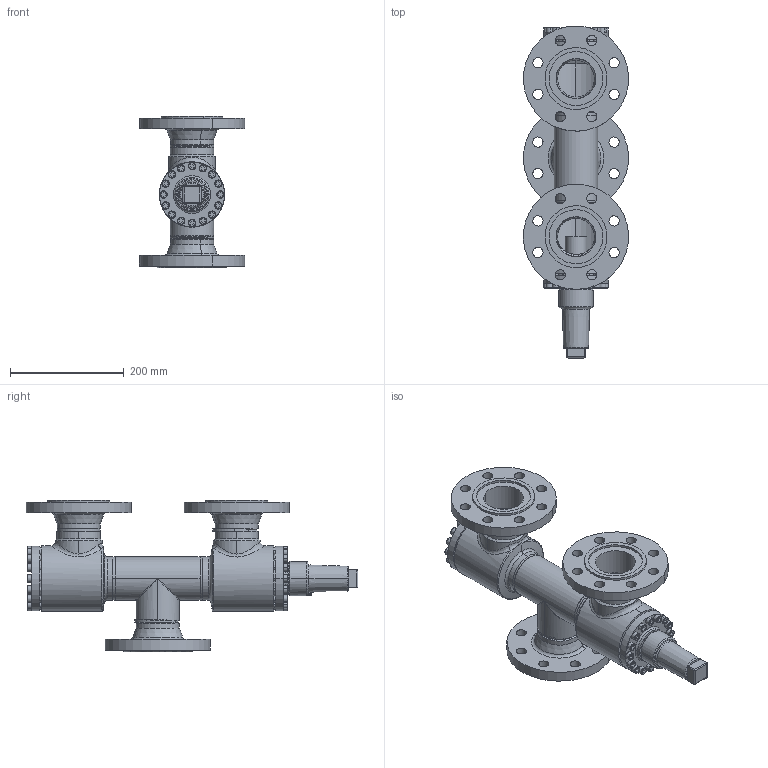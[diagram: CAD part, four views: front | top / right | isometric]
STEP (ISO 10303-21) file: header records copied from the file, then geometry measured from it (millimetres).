
FILE_DESCRIPTION (( 'STEP AP214' ), '1' );
FILE_NAME ('WVB23020D17-DN065_DIN-FL-N-F_PS40.STEP', '2010-09-08T08:43:43', ( 'Eckhard Grams' ), ( 'AWP Kälte Klima Armaturen GmbH' ), 'SwSTEP 2.0', 'SolidWorks 2002296', '' );
FILE_SCHEMA (( 'AUTOMOTIVE_DESIGN' ));
Length unit declared in the file: millimetre
Products named in the file (18): WVB23020D17-DN065_DIN-FL-N-F_PS40; WVB-R23000K17_Deck+Schr-DN65_Standard; Deckel23000K17-DN65_Standard; Kappe 16402-15_DN40-65 (M52x3)_Standard; Geh,kpl23020E17-DN065_DIN-FL-N-F_PS40_Standard; Geh,kpl23000E17-DN065_R1_PS40_Standard; bead23000-17-2_Standard; bead23000-17-1_Standard; Gehäuse23000E17-DN065_R1_PS40_Standard; T-Stück DIN2615_DN 65; Flansch-DIN2635-Nut_PS40_DIN-Flansch-DN065_PS40-Nut; bead23020-17-1_Standard; Flansch-DIN2635-Feder_PS40_DIN-Flansch-DN065_PS40-Feder; bead23020-17-2_Standard; bead23020-17-3_Standard; AVB16300K17_Deck+Schr-DN65_Standard; Deckel16300K17-DN65_Standard; Zylinderschraube-DIN912_M 8x  25
Assembly tree (50 placements, depth 4):
  WVB23020D17-DN065_DIN-FL-N-F_PS40
    AVB16300K17_Deck+Schr-DN65_Standard
      Zylinderschraube-DIN912_M 8x  25  x16
      Deckel16300K17-DN65_Standard
    Kappe 16402-15_DN40-65 (M52x3)_Standard
    WVB-R23000K17_Deck+Schr-DN65_Standard
      Zylinderschraube-DIN912_M 8x  25  x16
      Deckel23000K17-DN65_Standard
    Geh,kpl23020E17-DN065_DIN-FL-N-F_PS40_Standard
      Flansch-DIN2635-Feder_PS40_DIN-Flansch-DN065_PS40-Feder  x2
      Geh,kpl23000E17-DN065_R1_PS40_Standard
        bead23000-17-1_Standard
        Gehäuse23000E17-DN065_R1_PS40_Standard  x2
        bead23000-17-2_Standard
        T-Stück DIN2615_DN 65
      bead23020-17-1_Standard
      Flansch-DIN2635-Nut_PS40_DIN-Flansch-DN065_PS40-Nut
      bead23020-17-2_Standard
      bead23020-17-3_Standard
Bounding box: 184.82 x 583.41 x 267 mm (x, y, z)
Volume: 2937558.6 mm3; surface area: 701588.3 mm2
Topology: 46 solids, 46 shells, 1049 faces, 2379 edges, 1491 vertices
Faces by surface type: plane 391, cylinder 382, cone 145, torus 95, bspline 36
Entity records: 38545 total; most frequent: CARTESIAN_POINT 27443, DIRECTION 2221, ORIENTED_EDGE 2010, EDGE_CURVE 1005, AXIS2_PLACEMENT_3D 949, VERTEX_POINT 630, EDGE_LOOP 541, CIRCLE 516
